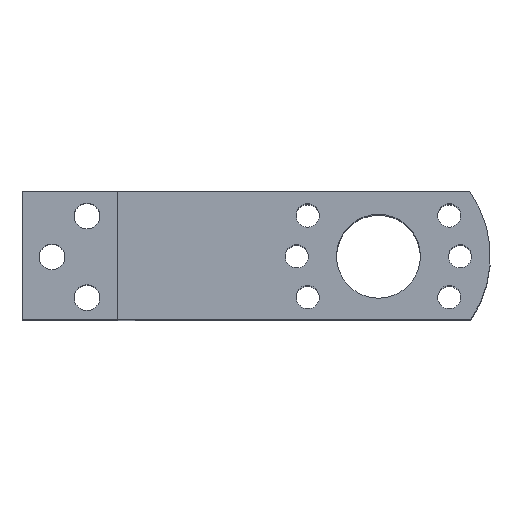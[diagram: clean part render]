
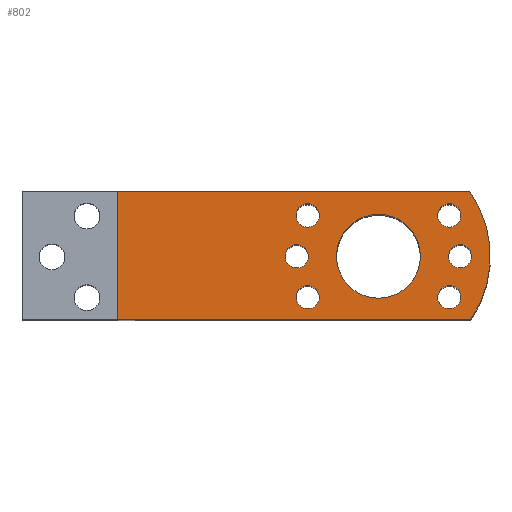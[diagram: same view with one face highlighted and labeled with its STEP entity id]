
A CAD part, top view. The second image highlights one B-rep face of the part: STEP entity #802.
In plain terms, the highlighted planar face has unit normal (0, 0, 1).
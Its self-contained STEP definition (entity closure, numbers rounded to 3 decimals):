
#40=FACE_BOUND('',#156,.T.);
#41=FACE_BOUND('',#157,.T.);
#42=FACE_BOUND('',#158,.T.);
#43=FACE_BOUND('',#159,.T.);
#44=FACE_BOUND('',#160,.T.);
#45=FACE_BOUND('',#161,.T.);
#46=FACE_BOUND('',#162,.T.);
#64=PLANE('',#887);
#96=FACE_OUTER_BOUND('',#155,.T.);
#155=EDGE_LOOP('',(#660,#661,#662,#663));
#156=EDGE_LOOP('',(#664));
#157=EDGE_LOOP('',(#665));
#158=EDGE_LOOP('',(#666));
#159=EDGE_LOOP('',(#667));
#160=EDGE_LOOP('',(#668));
#161=EDGE_LOOP('',(#669));
#162=EDGE_LOOP('',(#670));
#219=LINE('',#1276,#283);
#231=LINE('',#1300,#295);
#232=LINE('',#1301,#296);
#283=VECTOR('',#1047,10.);
#295=VECTOR('',#1069,10.);
#296=VECTOR('',#1070,10.);
#319=CIRCLE('',#835,1.);
#323=CIRCLE('',#841,1.);
#327=CIRCLE('',#847,1.);
#332=CIRCLE('',#854,9.6);
#335=CIRCLE('',#859,1.);
#339=CIRCLE('',#865,1.);
#343=CIRCLE('',#871,1.);
#347=CIRCLE('',#877,3.6);
#363=VERTEX_POINT('',#1154);
#367=VERTEX_POINT('',#1166);
#371=VERTEX_POINT('',#1178);
#377=VERTEX_POINT('',#1193);
#378=VERTEX_POINT('',#1195);
#383=VERTEX_POINT('',#1208);
#387=VERTEX_POINT('',#1220);
#391=VERTEX_POINT('',#1232);
#395=VERTEX_POINT('',#1244);
#408=VERTEX_POINT('',#1274);
#415=VERTEX_POINT('',#1299);
#435=EDGE_CURVE('',#363,#363,#319,.T.);
#441=EDGE_CURVE('',#367,#367,#323,.T.);
#447=EDGE_CURVE('',#371,#371,#327,.T.);
#455=EDGE_CURVE('',#378,#377,#332,.T.);
#461=EDGE_CURVE('',#383,#383,#335,.T.);
#467=EDGE_CURVE('',#387,#387,#339,.T.);
#473=EDGE_CURVE('',#391,#391,#343,.T.);
#479=EDGE_CURVE('',#395,#395,#347,.T.);
#495=EDGE_CURVE('',#408,#377,#219,.T.);
#507=EDGE_CURVE('',#408,#415,#231,.T.);
#508=EDGE_CURVE('',#415,#378,#232,.T.);
#660=ORIENTED_EDGE('',*,*,#455,.T.);
#661=ORIENTED_EDGE('',*,*,#495,.F.);
#662=ORIENTED_EDGE('',*,*,#507,.T.);
#663=ORIENTED_EDGE('',*,*,#508,.T.);
#664=ORIENTED_EDGE('',*,*,#435,.T.);
#665=ORIENTED_EDGE('',*,*,#441,.T.);
#666=ORIENTED_EDGE('',*,*,#447,.T.);
#667=ORIENTED_EDGE('',*,*,#461,.T.);
#668=ORIENTED_EDGE('',*,*,#467,.T.);
#669=ORIENTED_EDGE('',*,*,#473,.T.);
#670=ORIENTED_EDGE('',*,*,#479,.T.);
#802=ADVANCED_FACE('',(#96,#40,#41,#42,#43,#44,#45,#46),#64,.T.);
#835=AXIS2_PLACEMENT_3D('',#1155,#923,#924);
#841=AXIS2_PLACEMENT_3D('',#1167,#937,#938);
#847=AXIS2_PLACEMENT_3D('',#1179,#951,#952);
#854=AXIS2_PLACEMENT_3D('',#1196,#968,#969);
#859=AXIS2_PLACEMENT_3D('',#1209,#981,#982);
#865=AXIS2_PLACEMENT_3D('',#1221,#995,#996);
#871=AXIS2_PLACEMENT_3D('',#1233,#1009,#1010);
#877=AXIS2_PLACEMENT_3D('',#1245,#1023,#1024);
#887=AXIS2_PLACEMENT_3D('',#1298,#1067,#1068);
#923=DIRECTION('center_axis',(0.,0.,
-1.));
#924=DIRECTION('ref_axis',(0.5,-0.866,0.));
#937=DIRECTION('center_axis',(0.,0.,
-1.));
#938=DIRECTION('ref_axis',(1.,0.,0.));
#951=DIRECTION('center_axis',(0.,0.,
-1.));
#952=DIRECTION('ref_axis',(0.866,0.5,0.));
#968=DIRECTION('center_axis',(0.,0.,
1.));
#969=DIRECTION('ref_axis',(0.825,-0.566,0.));
#981=DIRECTION('center_axis',(0.,0.,
-1.));
#982=DIRECTION('ref_axis',(1.,0.,0.));
#995=DIRECTION('center_axis',(0.,0.,
-1.));
#996=DIRECTION('ref_axis',(0.5,-0.866,0.));
#1009=DIRECTION('center_axis',(0.,0.,
-1.));
#1010=DIRECTION('ref_axis',(0.866,0.5,0.));
#1023=DIRECTION('center_axis',(0.,0.,
-1.));
#1024=DIRECTION('ref_axis',(1.,0.,0.));
#1047=DIRECTION('',(1.,0.,0.));
#1067=DIRECTION('center_axis',(0.,0.,
1.));
#1068=DIRECTION('ref_axis',(0.,-1.,0.));
#1069=DIRECTION('',(0.,-1.,0.));
#1070=DIRECTION('',(1.,0.,0.));
#1154=CARTESIAN_POINT('',(-14.438,43.893,-7.55));
#1155=CARTESIAN_POINT('Origin',(-13.938,43.027,-7.55));
#1166=CARTESIAN_POINT('',(-28.,46.527,-7.55));
#1167=CARTESIAN_POINT('Origin',(-27.,46.527,-7.55));
#1178=CARTESIAN_POINT('',(-26.928,42.527,-7.55));
#1179=CARTESIAN_POINT('Origin',(-26.062,43.027,-7.55));
#1193=CARTESIAN_POINT('',(-12.181,52.097,-7.55));
#1195=CARTESIAN_POINT('',(-12.083,41.097,-7.55));
#1196=CARTESIAN_POINT('Origin',(-20.,46.527,-7.55));
#1208=CARTESIAN_POINT('',(-14.,46.527,-7.55));
#1209=CARTESIAN_POINT('Origin',(-13.,46.527,-7.55));
#1220=CARTESIAN_POINT('',(-26.562,50.893,-7.55));
#1221=CARTESIAN_POINT('Origin',(-26.062,50.027,-7.55));
#1232=CARTESIAN_POINT('',(-14.804,49.527,-7.55));
#1233=CARTESIAN_POINT('Origin',(-13.938,50.027,-7.55));
#1244=CARTESIAN_POINT('',(-23.6,46.527,-7.55));
#1245=CARTESIAN_POINT('Origin',(-20.,46.527,-7.55));
#1274=CARTESIAN_POINT('',(-42.411,52.097,-7.55));
#1276=CARTESIAN_POINT('',(-15.,52.097,-7.55));
#1298=CARTESIAN_POINT('Origin',(-41.661,46.597,-7.55));
#1299=CARTESIAN_POINT('',(-42.411,41.097,-7.55));
#1300=CARTESIAN_POINT('',(-42.411,46.597,-7.55));
#1301=CARTESIAN_POINT('',(-41.661,41.097,-7.55));
